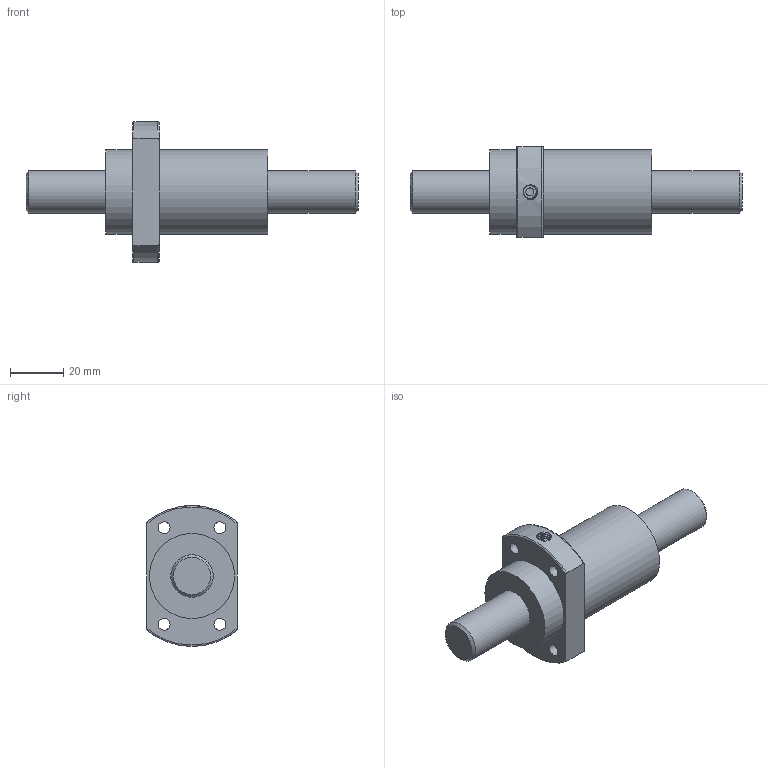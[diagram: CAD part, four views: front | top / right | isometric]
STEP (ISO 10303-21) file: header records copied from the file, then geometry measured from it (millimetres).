
FILE_DESCRIPTION (( 'STEP AP203' ), '1' );
FILE_NAME ('SFY01616-5.6.STEP', '2023-08-16T03:36:09', ( '' ), ( '' ), 'SwSTEP 2.0', 'SolidWorks 2022', '' );
FILE_SCHEMA (( 'CONFIG_CONTROL_DESIGN' ));
Length unit declared in the file: millimetre
Products named in the file (1): SFY01616-5.6
Bounding box: 125 x 34 x 53 mm (x, y, z)
Volume: 69632 mm3; surface area: 13891.1 mm2
Topology: 1 solids, 1 shells, 31 faces, 76 edges, 53 vertices
Faces by surface type: cylinder 13, plane 10, torus 4, bspline 2, cone 2
Full cylindrical faces by diameter (mm): 3 x1, 4.5 x4, 16 x2, 32 x2
Entity records: 2941 total; most frequent: CARTESIAN_POINT 2228, DIRECTION 128, ORIENTED_EDGE 112, AXIS2_PLACEMENT_3D 60, EDGE_CURVE 56, EDGE_LOOP 56, VERTEX_POINT 44, FACE_OUTER_BOUND 40
